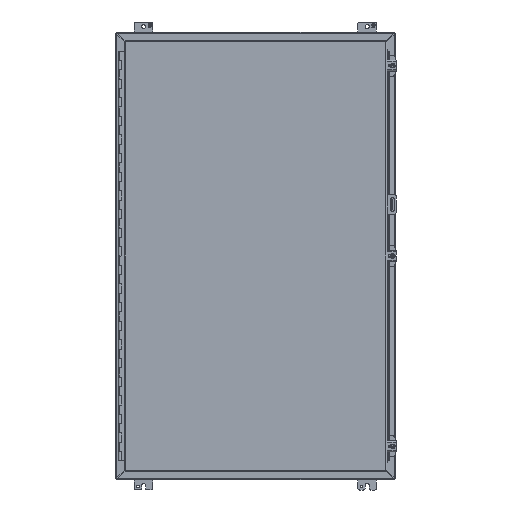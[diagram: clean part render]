
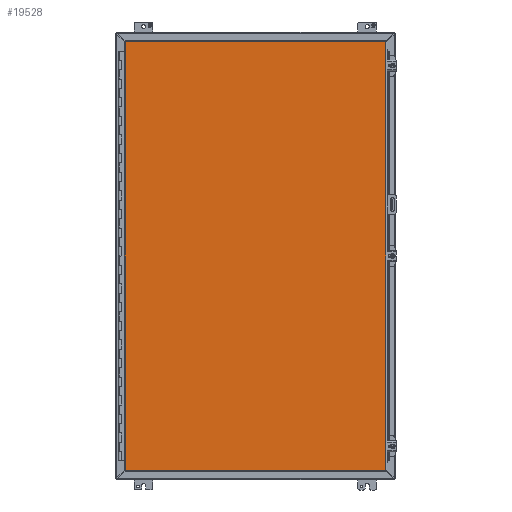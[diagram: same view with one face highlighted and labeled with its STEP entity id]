
A CAD part, front view. The second image highlights one B-rep face of the part: STEP entity #19528.
In plain terms, the highlighted planar face has unit normal (0, -1, 0).
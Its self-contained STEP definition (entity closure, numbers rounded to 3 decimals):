
#1182=LINE('',#30448,#3094);
#1183=LINE('',#30451,#3095);
#1184=LINE('',#30453,#3096);
#1185=LINE('',#30455,#3097);
#3094=VECTOR('',#23572,1000.);
#3095=VECTOR('',#23573,1000.);
#3096=VECTOR('',#23574,1000.);
#3097=VECTOR('',#23575,1000.);
#5088=PLANE('',#21283);
#6579=ORIENTED_EDGE('',*,*,#11943,.T.);
#6580=ORIENTED_EDGE('',*,*,#11944,.T.);
#6581=ORIENTED_EDGE('',*,*,#11945,.T.);
#6582=ORIENTED_EDGE('',*,*,#11946,.T.);
#11943=EDGE_CURVE('',#14708,#14709,#1182,.T.);
#11944=EDGE_CURVE('',#14709,#14710,#1183,.T.);
#11945=EDGE_CURVE('',#14710,#14711,#1184,.T.);
#11946=EDGE_CURVE('',#14711,#14708,#1185,.T.);
#14708=VERTEX_POINT('',#30449);
#14709=VERTEX_POINT('',#30450);
#14710=VERTEX_POINT('',#30452);
#14711=VERTEX_POINT('',#30454);
#17092=EDGE_LOOP('',(#6579,#6580,#6581,#6582));
#18328=FACE_BOUND('',#17092,.T.);
#19528=ADVANCED_FACE('',(#18328),#5088,.T.);
#21283=AXIS2_PLACEMENT_3D('',#30447,#23570,#23571);
#23570=DIRECTION('',(0.,-1.,0.));
#23571=DIRECTION('',(0.,0.,-1.));
#23572=DIRECTION('',(0.,0.,-1.));
#23573=DIRECTION('',(1.,0.,0.));
#23574=DIRECTION('',(0.,0.,1.));
#23575=DIRECTION('',(-1.,0.,0.));
#30447=CARTESIAN_POINT('',(-355.244,0.,-584.06));
#30448=CARTESIAN_POINT('',(-355.244,0.,584.06));
#30449=CARTESIAN_POINT('',(-355.244,0.,584.06));
#30450=CARTESIAN_POINT('',(-355.244,0.,-584.06));
#30451=CARTESIAN_POINT('',(-355.244,0.,-584.06));
#30452=CARTESIAN_POINT('',(355.244,0.,-584.06));
#30453=CARTESIAN_POINT('',(355.244,0.,-584.06));
#30454=CARTESIAN_POINT('',(355.244,0.,584.06));
#30455=CARTESIAN_POINT('',(355.244,0.,584.06));
